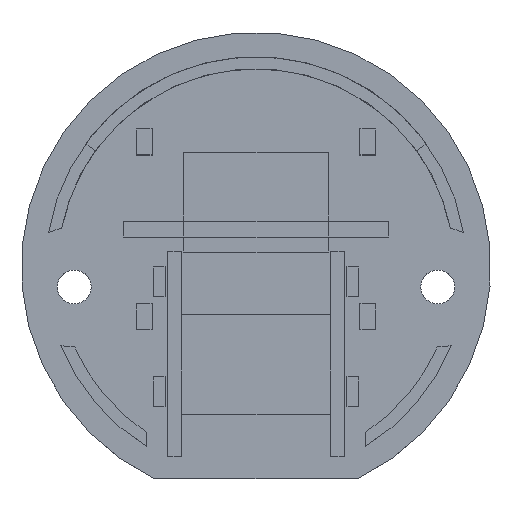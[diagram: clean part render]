
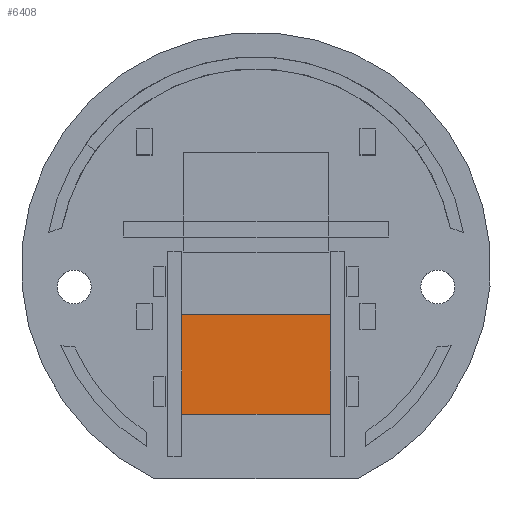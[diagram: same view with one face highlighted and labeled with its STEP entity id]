
A CAD part, top view. The second image highlights one B-rep face of the part: STEP entity #6408.
In plain terms, the highlighted planar face has unit normal (0, 0, 1).
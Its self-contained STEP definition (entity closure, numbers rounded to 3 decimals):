
#1110 = PLANE('',#1111);
#1111 = AXIS2_PLACEMENT_3D('',#1112,#1113,#1114);
#1112 = CARTESIAN_POINT('',(-7.5,-4.73,1.));
#1113 = DIRECTION('',(0.,1.,0.));
#1114 = DIRECTION('',(0.,0.,1.));
#1273 = PLANE('',#1274);
#1274 = AXIS2_PLACEMENT_3D('',#1275,#1276,#1277);
#1275 = CARTESIAN_POINT('',(-7.5,-14.73,1.));
#1276 = DIRECTION('',(0.,1.,0.));
#1277 = DIRECTION('',(0.,0.,1.));
#3848 = EDGE_CURVE('',#3849,#3851,#3853,.T.);
#3849 = VERTEX_POINT('',#3850);
#3850 = CARTESIAN_POINT('',(-7.5,-4.73,1.));
#3851 = VERTEX_POINT('',#3852);
#3852 = CARTESIAN_POINT('',(7.5,-4.73,1.));
#3853 = SURFACE_CURVE('',#3854,(#3858,#3865),.PCURVE_S1.);
#3854 = LINE('',#3855,#3856);
#3855 = CARTESIAN_POINT('',(-7.5,-4.73,1.));
#3856 = VECTOR('',#3857,1.);
#3857 = DIRECTION('',(1.,0.,0.));
#3858 = PCURVE('',#1110,#3859);
#3859 = DEFINITIONAL_REPRESENTATION('',(#3860),#3864);
#3860 = LINE('',#3861,#3862);
#3861 = CARTESIAN_POINT('',(0.,0.));
#3862 = VECTOR('',#3863,1.);
#3863 = DIRECTION('',(0.,1.));
#3864 = ( GEOMETRIC_REPRESENTATION_CONTEXT(2) 
PARAMETRIC_REPRESENTATION_CONTEXT() REPRESENTATION_CONTEXT('2D SPACE',''
  ) );
#3865 = PCURVE('',#3866,#3871);
#3866 = PLANE('',#3867);
#3867 = AXIS2_PLACEMENT_3D('',#3868,#3869,#3870);
#3868 = CARTESIAN_POINT('',(-7.5,-14.73,1.));
#3869 = DIRECTION('',(0.,0.,1.));
#3870 = DIRECTION('',(1.,0.,0.));
#3871 = DEFINITIONAL_REPRESENTATION('',(#3872),#3876);
#3872 = LINE('',#3873,#3874);
#3873 = CARTESIAN_POINT('',(0.,10.));
#3874 = VECTOR('',#3875,1.);
#3875 = DIRECTION('',(1.,0.));
#3876 = ( GEOMETRIC_REPRESENTATION_CONTEXT(2) 
PARAMETRIC_REPRESENTATION_CONTEXT() REPRESENTATION_CONTEXT('2D SPACE',''
  ) );
#3894 = PLANE('',#3895);
#3895 = AXIS2_PLACEMENT_3D('',#3896,#3897,#3898);
#3896 = CARTESIAN_POINT('',(-7.5,-14.73,1.));
#3897 = DIRECTION('',(1.,0.,0.));
#3898 = DIRECTION('',(0.,0.,1.));
#3970 = PLANE('',#3971);
#3971 = AXIS2_PLACEMENT_3D('',#3972,#3973,#3974);
#3972 = CARTESIAN_POINT('',(7.5,-14.73,1.));
#3973 = DIRECTION('',(1.,0.,0.));
#3974 = DIRECTION('',(0.,0.,1.));
#3985 = EDGE_CURVE('',#3986,#3988,#3990,.T.);
#3986 = VERTEX_POINT('',#3987);
#3987 = CARTESIAN_POINT('',(-7.5,-14.73,1.));
#3988 = VERTEX_POINT('',#3989);
#3989 = CARTESIAN_POINT('',(7.5,-14.73,1.));
#3990 = SURFACE_CURVE('',#3991,(#3995,#4002),.PCURVE_S1.);
#3991 = LINE('',#3992,#3993);
#3992 = CARTESIAN_POINT('',(-7.5,-14.73,1.));
#3993 = VECTOR('',#3994,1.);
#3994 = DIRECTION('',(1.,0.,0.));
#3995 = PCURVE('',#1273,#3996);
#3996 = DEFINITIONAL_REPRESENTATION('',(#3997),#4001);
#3997 = LINE('',#3998,#3999);
#3998 = CARTESIAN_POINT('',(0.,0.));
#3999 = VECTOR('',#4000,1.);
#4000 = DIRECTION('',(0.,1.));
#4001 = ( GEOMETRIC_REPRESENTATION_CONTEXT(2) 
PARAMETRIC_REPRESENTATION_CONTEXT() REPRESENTATION_CONTEXT('2D SPACE',''
  ) );
#4002 = PCURVE('',#3866,#4003);
#4003 = DEFINITIONAL_REPRESENTATION('',(#4004),#4008);
#4004 = LINE('',#4005,#4006);
#4005 = CARTESIAN_POINT('',(0.,0.));
#4006 = VECTOR('',#4007,1.);
#4007 = DIRECTION('',(1.,0.));
#4008 = ( GEOMETRIC_REPRESENTATION_CONTEXT(2) 
PARAMETRIC_REPRESENTATION_CONTEXT() REPRESENTATION_CONTEXT('2D SPACE',''
  ) );
#6408 = ADVANCED_FACE('',(#6409),#3866,.T.);
#6409 = FACE_BOUND('',#6410,.T.);
#6410 = EDGE_LOOP('',(#6411,#6432,#6433,#6454));
#6411 = ORIENTED_EDGE('',*,*,#6412,.F.);
#6412 = EDGE_CURVE('',#3986,#3849,#6413,.T.);
#6413 = SURFACE_CURVE('',#6414,(#6418,#6425),.PCURVE_S1.);
#6414 = LINE('',#6415,#6416);
#6415 = CARTESIAN_POINT('',(-7.5,-14.73,1.));
#6416 = VECTOR('',#6417,1.);
#6417 = DIRECTION('',(0.,1.,0.));
#6418 = PCURVE('',#3866,#6419);
#6419 = DEFINITIONAL_REPRESENTATION('',(#6420),#6424);
#6420 = LINE('',#6421,#6422);
#6421 = CARTESIAN_POINT('',(0.,0.));
#6422 = VECTOR('',#6423,1.);
#6423 = DIRECTION('',(0.,1.));
#6424 = ( GEOMETRIC_REPRESENTATION_CONTEXT(2) 
PARAMETRIC_REPRESENTATION_CONTEXT() REPRESENTATION_CONTEXT('2D SPACE',''
  ) );
#6425 = PCURVE('',#3894,#6426);
#6426 = DEFINITIONAL_REPRESENTATION('',(#6427),#6431);
#6427 = LINE('',#6428,#6429);
#6428 = CARTESIAN_POINT('',(0.,0.));
#6429 = VECTOR('',#6430,1.);
#6430 = DIRECTION('',(0.,-1.));
#6431 = ( GEOMETRIC_REPRESENTATION_CONTEXT(2) 
PARAMETRIC_REPRESENTATION_CONTEXT() REPRESENTATION_CONTEXT('2D SPACE',''
  ) );
#6432 = ORIENTED_EDGE('',*,*,#3985,.T.);
#6433 = ORIENTED_EDGE('',*,*,#6434,.T.);
#6434 = EDGE_CURVE('',#3988,#3851,#6435,.T.);
#6435 = SURFACE_CURVE('',#6436,(#6440,#6447),.PCURVE_S1.);
#6436 = LINE('',#6437,#6438);
#6437 = CARTESIAN_POINT('',(7.5,-14.73,1.));
#6438 = VECTOR('',#6439,1.);
#6439 = DIRECTION('',(0.,1.,0.));
#6440 = PCURVE('',#3866,#6441);
#6441 = DEFINITIONAL_REPRESENTATION('',(#6442),#6446);
#6442 = LINE('',#6443,#6444);
#6443 = CARTESIAN_POINT('',(15.,0.));
#6444 = VECTOR('',#6445,1.);
#6445 = DIRECTION('',(0.,1.));
#6446 = ( GEOMETRIC_REPRESENTATION_CONTEXT(2) 
PARAMETRIC_REPRESENTATION_CONTEXT() REPRESENTATION_CONTEXT('2D SPACE',''
  ) );
#6447 = PCURVE('',#3970,#6448);
#6448 = DEFINITIONAL_REPRESENTATION('',(#6449),#6453);
#6449 = LINE('',#6450,#6451);
#6450 = CARTESIAN_POINT('',(0.,0.));
#6451 = VECTOR('',#6452,1.);
#6452 = DIRECTION('',(0.,-1.));
#6453 = ( GEOMETRIC_REPRESENTATION_CONTEXT(2) 
PARAMETRIC_REPRESENTATION_CONTEXT() REPRESENTATION_CONTEXT('2D SPACE',''
  ) );
#6454 = ORIENTED_EDGE('',*,*,#3848,.F.);
